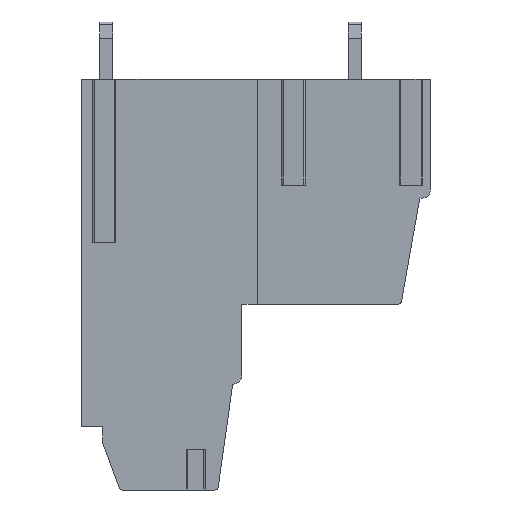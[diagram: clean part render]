
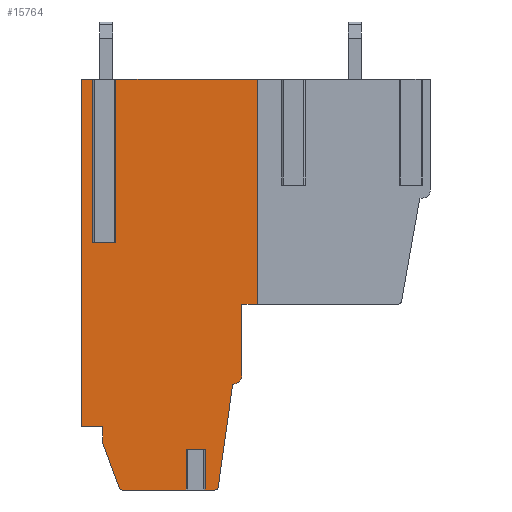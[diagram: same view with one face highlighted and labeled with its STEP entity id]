
A CAD part, left-side view. The second image highlights one B-rep face of the part: STEP entity #15764.
In plain terms, the highlighted planar face has unit normal (-1, 0, 0).
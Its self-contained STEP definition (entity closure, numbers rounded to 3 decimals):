
#335=DIRECTION('',(0.,1.,0.));
#336=VECTOR('',#335,8.877);
#337=CARTESIAN_POINT('',(3.11,10.6,0.));
#338=LINE('',#337,#336);
#371=DIRECTION('',(0.,1.,0.));
#372=VECTOR('',#371,0.877);
#373=CARTESIAN_POINT('',(3.11,20.523,0.));
#374=LINE('',#373,#372);
#771=DIRECTION('',(0.,0.,-1.));
#772=VECTOR('',#771,0.912);
#773=CARTESIAN_POINT('',(3.11,20.1,-21.3));
#774=LINE('',#773,#772);
#1199=DIRECTION('',(0.,1.,0.));
#1200=VECTOR('',#1199,1.154);
#1201=CARTESIAN_POINT('',(3.11,13.823,-22.7));
#1202=LINE('',#1201,#1200);
#1203=CARTESIAN_POINT('',(3.11,18.904,-25.));
#1204=DIRECTION('',(1.,0.,0.));
#1205=DIRECTION('',(0.,0.,-1.));
#1206=AXIS2_PLACEMENT_3D('',#1203,#1204,#1205);
#1208=DIRECTION('',(0.,0.342,0.94));
#1209=VECTOR('',#1208,2.858);
#1210=CARTESIAN_POINT('',(3.11,19.092,-25.068));
#1211=LINE('',#1210,#1209);
#1212=CARTESIAN_POINT('',(3.11,19.6,-22.212));
#1213=DIRECTION('',(1.,0.,0.));
#1214=DIRECTION('',(0.,0.94,-0.342));
#1215=AXIS2_PLACEMENT_3D('',#1212,#1213,#1214);
#1217=DIRECTION('',(0.,-1.,0.));
#1218=VECTOR('',#1217,1.045);
#1219=CARTESIAN_POINT('',(3.11,20.523,-10.));
#1220=LINE('',#1219,#1218);
#1221=DIRECTION('',(0.,1.,0.));
#1222=VECTOR('',#1221,0.98);
#1223=CARTESIAN_POINT('',(3.11,10.6,-13.8));
#1224=LINE('',#1223,#1222);
#1225=CARTESIAN_POINT('',(3.11,12.08,-18.2));
#1226=DIRECTION('',(1.,0.,0.));
#1227=DIRECTION('',(0.,-1.,0.));
#1228=AXIS2_PLACEMENT_3D('',#1225,#1226,#1227);
#1230=DIRECTION('',(0.,0.139,-0.99));
#1231=VECTOR('',#1230,6.39);
#1232=CARTESIAN_POINT('',(3.11,12.131,-18.7));
#1233=LINE('',#1232,#1231);
#1234=CARTESIAN_POINT('',(3.11,13.218,-25.));
#1235=DIRECTION('',(1.,0.,0.));
#1236=DIRECTION('',(0.,-0.99,-0.139));
#1237=AXIS2_PLACEMENT_3D('',#1234,#1235,#1236);
#1243=DIRECTION('',(0.,0.,-1.));
#1244=VECTOR('',#1243,2.5);
#1245=CARTESIAN_POINT('',(3.11,13.823,-22.7));
#1246=LINE('',#1245,#1244);
#1252=DIRECTION('',(0.,-1.,0.));
#1253=VECTOR('',#1252,0.605);
#1254=CARTESIAN_POINT('',(3.11,13.823,-25.2));
#1255=LINE('',#1254,#1253);
#1288=DIRECTION('',(0.,-1.,0.));
#1289=VECTOR('',#1288,3.927);
#1290=CARTESIAN_POINT('',(3.11,18.904,-25.2));
#1291=LINE('',#1290,#1289);
#1472=DIRECTION('',(0.,-1.,0.));
#1473=VECTOR('',#1472,0.051);
#1474=CARTESIAN_POINT('',(3.11,12.131,-18.7));
#1475=LINE('',#1474,#1473);
#1550=DIRECTION('',(0.,0.,1.));
#1551=VECTOR('',#1550,4.4);
#1552=CARTESIAN_POINT('',(3.11,11.58,-18.2));
#1553=LINE('',#1552,#1551);
#2373=DIRECTION('',(0.,0.,1.));
#2374=VECTOR('',#2373,13.8);
#2375=CARTESIAN_POINT('',(3.11,10.6,-13.8));
#2376=LINE('',#2375,#2374);
#8917=DIRECTION('',(0.,0.,1.));
#8918=VECTOR('',#8917,2.5);
#8919=CARTESIAN_POINT('',(3.11,14.977,-25.2));
#8920=LINE('',#8919,#8918);
#9853=DIRECTION('',(0.,-1.,0.));
#9854=VECTOR('',#9853,1.3);
#9855=CARTESIAN_POINT('',(3.11,21.4,-21.3));
#9856=LINE('',#9855,#9854);
#9997=DIRECTION('',(0.,0.,-1.));
#9998=VECTOR('',#9997,21.3);
#9999=CARTESIAN_POINT('',(3.11,21.4,0.));
#10000=LINE('',#9999,#9998);
#10025=DIRECTION('',(0.,0.,1.));
#10026=VECTOR('',#10025,10.);
#10027=CARTESIAN_POINT('',(3.11,20.523,-10.));
#10028=LINE('',#10027,#10026);
#10081=DIRECTION('',(0.,0.,-1.));
#10082=VECTOR('',#10081,10.);
#10083=CARTESIAN_POINT('',(3.11,19.477,0.));
#10084=LINE('',#10083,#10082);
#11191=CARTESIAN_POINT('',(3.11,10.6,0.));
#11192=VERTEX_POINT('',#11191);
#11193=CARTESIAN_POINT('',(3.11,19.477,0.));
#11194=VERTEX_POINT('',#11193);
#11207=CARTESIAN_POINT('',(3.11,20.523,0.));
#11208=VERTEX_POINT('',#11207);
#11209=CARTESIAN_POINT('',(3.11,21.4,0.));
#11210=VERTEX_POINT('',#11209);
#11595=CARTESIAN_POINT('',(3.11,20.1,-21.3));
#11597=VERTEX_POINT('',#11595);
#11599=CARTESIAN_POINT('',(3.11,20.1,-22.212));
#11600=VERTEX_POINT('',#11599);
#11625=CARTESIAN_POINT('',(3.11,21.4,-21.3));
#11626=VERTEX_POINT('',#11625);
#11721=CARTESIAN_POINT('',(3.11,11.58,-18.2));
#11722=VERTEX_POINT('',#11721);
#11723=CARTESIAN_POINT('',(3.11,11.58,-13.8));
#11724=VERTEX_POINT('',#11723);
#11734=CARTESIAN_POINT('',(3.11,10.6,-13.8));
#11735=VERTEX_POINT('',#11734);
#11858=CARTESIAN_POINT('',(3.11,13.823,-22.7));
#11859=CARTESIAN_POINT('',(3.11,13.823,-25.2));
#11860=VERTEX_POINT('',#11858);
#11861=VERTEX_POINT('',#11859);
#11862=CARTESIAN_POINT('',(3.11,14.977,-22.7));
#11863=VERTEX_POINT('',#11862);
#11864=CARTESIAN_POINT('',(3.11,14.977,-25.2));
#11865=VERTEX_POINT('',#11864);
#11866=CARTESIAN_POINT('',(3.11,18.904,-25.2));
#11867=VERTEX_POINT('',#11866);
#11868=CARTESIAN_POINT('',(3.11,19.092,-25.068));
#11869=VERTEX_POINT('',#11868);
#11870=CARTESIAN_POINT('',(3.11,20.07,-22.383));
#11871=VERTEX_POINT('',#11870);
#11872=CARTESIAN_POINT('',(3.11,20.523,-10.));
#11873=VERTEX_POINT('',#11872);
#11874=CARTESIAN_POINT('',(3.11,19.477,-10.));
#11875=VERTEX_POINT('',#11874);
#11876=CARTESIAN_POINT('',(3.11,12.08,-18.7));
#11877=VERTEX_POINT('',#11876);
#11878=CARTESIAN_POINT('',(3.11,12.131,-18.7));
#11879=VERTEX_POINT('',#11878);
#11880=CARTESIAN_POINT('',(3.11,13.02,-25.028));
#11881=VERTEX_POINT('',#11880);
#11882=CARTESIAN_POINT('',(3.11,13.218,-25.2));
#11883=VERTEX_POINT('',#11882);
#15715=CARTESIAN_POINT('',(3.11,10.6,0.));
#15716=DIRECTION('',(1.,0.,0.));
#15717=DIRECTION('',(0.,1.,0.));
#15718=AXIS2_PLACEMENT_3D('',#15715,#15716,#15717);
#15719=PLANE('',#15718);
#15721=ORIENTED_EDGE('',*,*,#15720,.F.);
#15723=ORIENTED_EDGE('',*,*,#15722,.T.);
#15725=ORIENTED_EDGE('',*,*,#15724,.F.);
#15727=ORIENTED_EDGE('',*,*,#15726,.F.);
#15729=ORIENTED_EDGE('',*,*,#15728,.T.);
#15731=ORIENTED_EDGE('',*,*,#15730,.T.);
#15732=ORIENTED_EDGE('',*,*,#15706,.T.);
#15733=ORIENTED_EDGE('',*,*,#15025,.F.);
#15735=ORIENTED_EDGE('',*,*,#15734,.F.);
#15737=ORIENTED_EDGE('',*,*,#15736,.F.);
#15738=ORIENTED_EDGE('',*,*,#14608,.F.);
#15740=ORIENTED_EDGE('',*,*,#15739,.F.);
#15742=ORIENTED_EDGE('',*,*,#15741,.T.);
#15744=ORIENTED_EDGE('',*,*,#15743,.F.);
#15745=ORIENTED_EDGE('',*,*,#14592,.F.);
#15747=ORIENTED_EDGE('',*,*,#15746,.F.);
#15749=ORIENTED_EDGE('',*,*,#15748,.T.);
#15751=ORIENTED_EDGE('',*,*,#15750,.F.);
#15753=ORIENTED_EDGE('',*,*,#15752,.T.);
#15755=ORIENTED_EDGE('',*,*,#15754,.F.);
#15757=ORIENTED_EDGE('',*,*,#15756,.T.);
#15759=ORIENTED_EDGE('',*,*,#15758,.T.);
#15761=ORIENTED_EDGE('',*,*,#15760,.F.);
#15762=EDGE_LOOP('',(#15721,#15723,#15725,#15727,#15729,#15731,#15732,#15733,
#15735,#15737,#15738,#15740,#15742,#15744,#15745,#15747,#15749,#15751,#15753,
#15755,#15757,#15759,#15761));
#15763=FACE_OUTER_BOUND('',#15762,.F.);
#15764=ADVANCED_FACE('',(#15763),#15719,.F.);
#1207=CIRCLE('',#1206,0.2);
#1216=CIRCLE('',#1215,0.5);
#1229=CIRCLE('',#1228,0.5);
#1238=CIRCLE('',#1237,0.2);
#14592=EDGE_CURVE('',#11192,#11194,#338,.T.);
#14608=EDGE_CURVE('',#11208,#11210,#374,.T.);
#15025=EDGE_CURVE('',#11597,#11600,#774,.T.);
#15706=EDGE_CURVE('',#11871,#11600,#1216,.T.);
#15720=EDGE_CURVE('',#11860,#11861,#1246,.T.);
#15722=EDGE_CURVE('',#11860,#11863,#1202,.T.);
#15724=EDGE_CURVE('',#11865,#11863,#8920,.T.);
#15726=EDGE_CURVE('',#11867,#11865,#1291,.T.);
#15728=EDGE_CURVE('',#11867,#11869,#1207,.T.);
#15730=EDGE_CURVE('',#11869,#11871,#1211,.T.);
#15734=EDGE_CURVE('',#11626,#11597,#9856,.T.);
#15736=EDGE_CURVE('',#11210,#11626,#10000,.T.);
#15739=EDGE_CURVE('',#11873,#11208,#10028,.T.);
#15741=EDGE_CURVE('',#11873,#11875,#1220,.T.);
#15743=EDGE_CURVE('',#11194,#11875,#10084,.T.);
#15746=EDGE_CURVE('',#11735,#11192,#2376,.T.);
#15748=EDGE_CURVE('',#11735,#11724,#1224,.T.);
#15750=EDGE_CURVE('',#11722,#11724,#1553,.T.);
#15752=EDGE_CURVE('',#11722,#11877,#1229,.T.);
#15754=EDGE_CURVE('',#11879,#11877,#1475,.T.);
#15756=EDGE_CURVE('',#11879,#11881,#1233,.T.);
#15758=EDGE_CURVE('',#11881,#11883,#1238,.T.);
#15760=EDGE_CURVE('',#11861,#11883,#1255,.T.);
